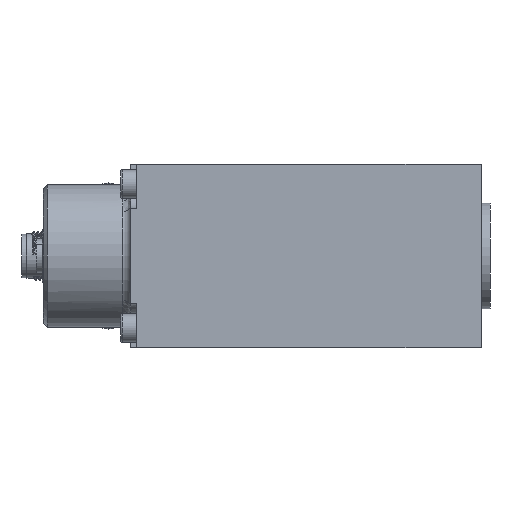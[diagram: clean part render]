
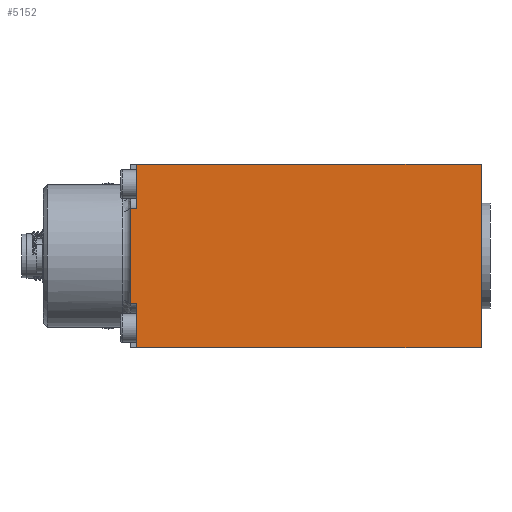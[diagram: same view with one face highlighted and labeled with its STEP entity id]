
A CAD part, front view. The second image highlights one B-rep face of the part: STEP entity #5152.
In plain terms, the highlighted planar face has unit normal (0, -1, 0).
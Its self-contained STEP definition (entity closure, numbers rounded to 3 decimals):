
#2194 = EDGE_CURVE ( 'NONE', #97133, #110614, #112224, .T. ) ;
#5002 = CARTESIAN_POINT ( 'NONE',  ( 1.5, -22.5, -11.68 ) ) ;
#5152 = ADVANCED_FACE ( 'NONE', ( #22582 ), #43428, .F. ) ;
#7130 = CARTESIAN_POINT ( 'NONE',  ( 86., -22.5, -22.5 ) ) ;
#11024 = CARTESIAN_POINT ( 'NONE',  ( 1.5, -22.5, 22.5 ) ) ;
#15420 = ORIENTED_EDGE ( 'NONE', *, *, #82553, .F. ) ;
#15933 = VECTOR ( 'NONE', #84073, 1000. ) ;
#17097 = LINE ( 'NONE', #114160, #38839 ) ;
#19855 = ORIENTED_EDGE ( 'NONE', *, *, #104393, .T. ) ;
#20162 = CARTESIAN_POINT ( 'NONE',  ( 86., -22.5, 22.5 ) ) ;
#21138 = ORIENTED_EDGE ( 'NONE', *, *, #27714, .T. ) ;
#21367 = DIRECTION ( 'NONE',  ( 0., 0., -1. ) ) ;
#22582 = FACE_OUTER_BOUND ( 'NONE', #74342, .T. ) ;
#22871 = CARTESIAN_POINT ( 'NONE',  ( 1.5, -22.5, 11.68 ) ) ;
#27714 = EDGE_CURVE ( 'NONE', #80188, #81342, #90304, .T. ) ;
#33789 = CARTESIAN_POINT ( 'NONE',  ( 86., -22.5, 22.5 ) ) ;
#35801 = ORIENTED_EDGE ( 'NONE', *, *, #77049, .T. ) ;
#38554 = ORIENTED_EDGE ( 'NONE', *, *, #97402, .F. ) ;
#38816 = LINE ( 'NONE', #97256, #110007 ) ;
#38839 = VECTOR ( 'NONE', #77206, 1000. ) ;
#41053 = DIRECTION ( 'NONE',  ( -1., 0., 0. ) ) ;
#41686 = CARTESIAN_POINT ( 'NONE',  ( 86., -22.5, -22.5 ) ) ;
#42340 = CARTESIAN_POINT ( 'NONE',  ( 0., -22.5, 11.68 ) ) ;
#43288 = DIRECTION ( 'NONE',  ( 0., 0., 1. ) ) ;
#43398 = DIRECTION ( 'NONE',  ( 0., 1., 0. ) ) ;
#43428 = PLANE ( 'NONE',  #62691 ) ;
#44097 = CARTESIAN_POINT ( 'NONE',  ( 86., -22.5, 22.5 ) ) ;
#44372 = ORIENTED_EDGE ( 'NONE', *, *, #2194, .F. ) ;
#47849 = VECTOR ( 'NONE', #65961, 1000. ) ;
#55149 = LINE ( 'NONE', #111682, #15933 ) ;
#55426 = VERTEX_POINT ( 'NONE', #5002 ) ;
#56052 = EDGE_CURVE ( 'NONE', #80188, #97133, #103416, .T. ) ;
#60360 = DIRECTION ( 'NONE',  ( -1., 0., 0. ) ) ;
#62691 = AXIS2_PLACEMENT_3D ( 'NONE', #44097, #43398, #43288 ) ;
#65591 = VECTOR ( 'NONE', #103739, 1000. ) ;
#65652 = CARTESIAN_POINT ( 'NONE',  ( 1.5, -22.5, -22.5 ) ) ;
#65961 = DIRECTION ( 'NONE',  ( 0., 0., 1. ) ) ;
#73710 = VERTEX_POINT ( 'NONE', #42340 ) ;
#74342 = EDGE_LOOP ( 'NONE', ( #38554, #19855, #35801, #114159, #15420, #44372, #112672, #21138 ) ) ;
#77049 = EDGE_CURVE ( 'NONE', #73710, #114387, #110017, .T. ) ;
#77206 = DIRECTION ( 'NONE',  ( 0., 0., 1. ) ) ;
#80188 = VERTEX_POINT ( 'NONE', #33789 ) ;
#81342 = VERTEX_POINT ( 'NONE', #11024 ) ;
#82553 = EDGE_CURVE ( 'NONE', #110614, #55426, #97217, .T. ) ;
#84073 = DIRECTION ( 'NONE',  ( -1., 0., 0. ) ) ;
#84150 = EDGE_CURVE ( 'NONE', #55426, #114387, #38816, .T. ) ;
#85329 = VECTOR ( 'NONE', #97602, 1000. ) ;
#85486 = CARTESIAN_POINT ( 'NONE',  ( 1.5, -22.5, -11.68 ) ) ;
#87554 = VECTOR ( 'NONE', #41053, 1000. ) ;
#90304 = LINE ( 'NONE', #20162, #65591 ) ;
#92276 = CARTESIAN_POINT ( 'NONE',  ( 0., -22.5, -11.68 ) ) ;
#97133 = VERTEX_POINT ( 'NONE', #7130 ) ;
#97217 = LINE ( 'NONE', #85486, #47849 ) ;
#97256 = CARTESIAN_POINT ( 'NONE',  ( 1.5, -22.5, -11.68 ) ) ;
#97402 = EDGE_CURVE ( 'NONE', #98912, #81342, #17097, .T. ) ;
#97602 = DIRECTION ( 'NONE',  ( 0., 0., -1. ) ) ;
#98912 = VERTEX_POINT ( 'NONE', #22871 ) ;
#100480 = VECTOR ( 'NONE', #21367, 1000. ) ;
#103416 = LINE ( 'NONE', #113495, #100480 ) ;
#103739 = DIRECTION ( 'NONE',  ( -1., 0., 0. ) ) ;
#104393 = EDGE_CURVE ( 'NONE', #98912, #73710, #55149, .T. ) ;
#110007 = VECTOR ( 'NONE', #60360, 1000. ) ;
#110017 = LINE ( 'NONE', #116318, #85329 ) ;
#110614 = VERTEX_POINT ( 'NONE', #65652 ) ;
#111682 = CARTESIAN_POINT ( 'NONE',  ( 1.5, -22.5, 11.68 ) ) ;
#112224 = LINE ( 'NONE', #41686, #87554 ) ;
#112672 = ORIENTED_EDGE ( 'NONE', *, *, #56052, .F. ) ;
#113495 = CARTESIAN_POINT ( 'NONE',  ( 86., -22.5, 22.5 ) ) ;
#114159 = ORIENTED_EDGE ( 'NONE', *, *, #84150, .F. ) ;
#114160 = CARTESIAN_POINT ( 'NONE',  ( 1.5, -22.5, 11.68 ) ) ;
#114387 = VERTEX_POINT ( 'NONE', #92276 ) ;
#116318 = CARTESIAN_POINT ( 'NONE',  ( 0., -22.5, 22.5 ) ) ;
